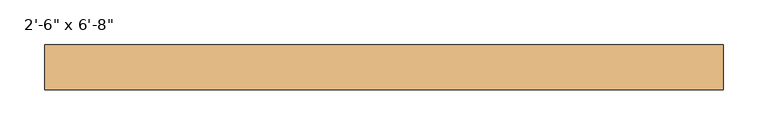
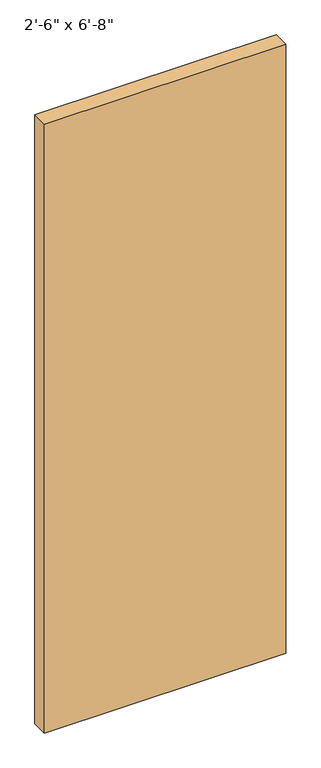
"""IFC4 building model written with IfcOpenShell, lengths in millimetres: door geometry."""

from ifc_helpers import new_model, si_unit, origin, origin_with_axes, place, context, project, spatial, polyline, outline, extrude, source, transform, mapped, element, save


def door_4489987b(model_context):
    return source(origin(), model_context, "Body", "SweptSolid", [
        extrude(outline(polyline([(381.0, 37.9), (-381.0, 37.9), (-381.0, 88.9), (381.0, 88.9), (381.0, 37.9)])), origin_with_axes(), (0.0, 0.0, 1.0), 2032.0),
    ])


if __name__ == "__main__":
    model = new_model("IFC4")
    model_context = context("Model", 3, world=origin())
    ifc_project = project(units=[si_unit("LENGTHUNIT", "METRE", prefix="MILLI")], contexts=[model_context])
    site = spatial("IfcSite", under=ifc_project)
    building = spatial("IfcBuilding", under=site)
    placement = place(None, origin())
    door_shape = door_4489987b(model_context)
    element("IfcDoor", 1, ObjectType="Planitar - Single Door_Flush Panel : 2'-6\" x 6'-8\"", at=placement, inside=building, context=model_context, shape_type="MappedRepresentation", body=[
        mapped(door_shape, transform((0.0, 0.0, 0.0), x_axis=(1.0, 0.0, 0.0), y_axis=(0.0, 1.0, 0.0), z_axis=(0.0, 0.0, 1.0))),
    ])
    save(model, "model.ifc")
